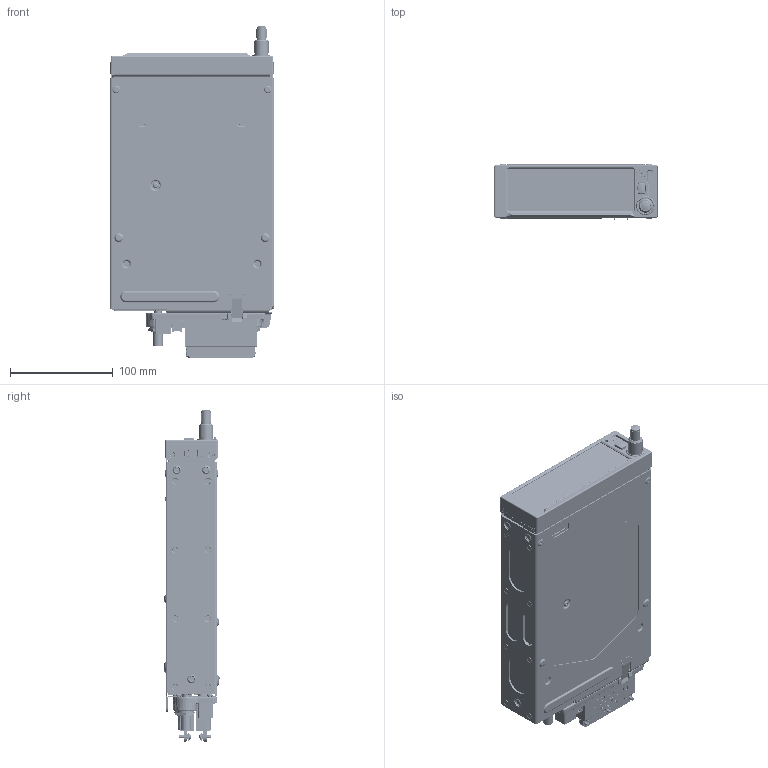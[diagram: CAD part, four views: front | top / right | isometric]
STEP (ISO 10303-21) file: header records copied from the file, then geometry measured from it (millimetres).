
FILE_DESCRIPTION (( 'STEP AP203' ), '1' );
FILE_NAME ('GNX375_011-04378-00_R[115-02768-00]_B[011-04781-00]_C[011-04779-01]_Rev1.STEP', '2019-06-10T14:22:30', ( '' ), ( '' ), 'SwSTEP 2.0', 'SolidWorks 2016', '' );
FILE_SCHEMA (( 'CONFIG_CONTROL_DESIGN' ));
Length unit declared in the file: millimetre
Products named in the file (1): GNX375_011-04378-00_R[115-02768-00]_B[011-04781-00]_C[011-04779-01]_Rev1
Bounding box: 160.02 x 53.62 x 322.48 mm (x, y, z)
Volume: 1903627.7 mm3; surface area: 291074 mm2
Topology: 5 solids, 45 shells, 7180 faces, 18324 edges, 11765 vertices
Faces by surface type: plane 3047, bspline 1660, cylinder 1411, torus 538, cone 501, sphere 23
Entity records: 294046 total; most frequent: CARTESIAN_POINT 131449, ORIENTED_EDGE 36576, DIRECTION 29417, EDGE_CURVE 18288, VERTEX_POINT 11765, AXIS2_PLACEMENT_3D 10371, VECTOR 8675, LINE 8675
